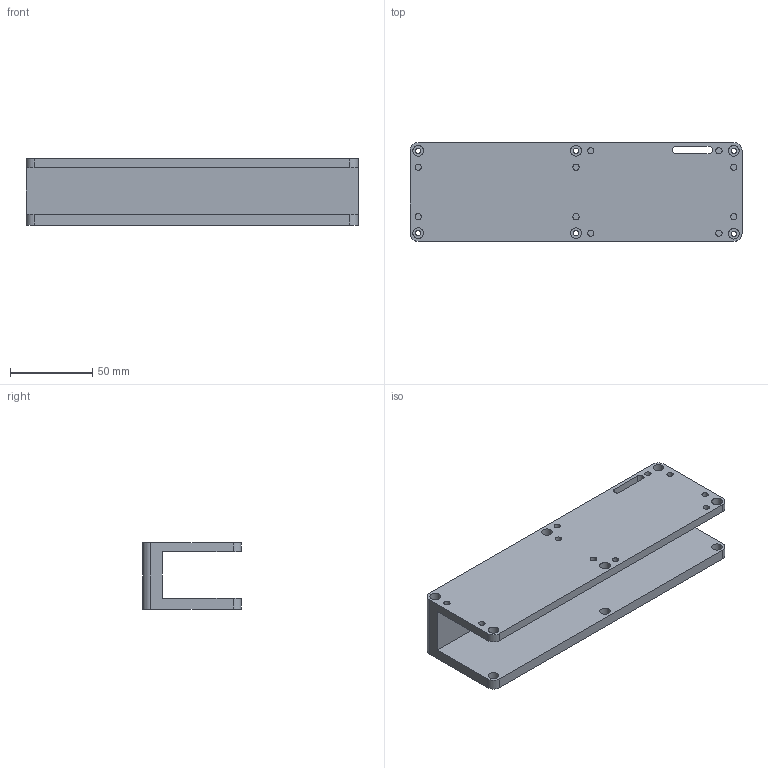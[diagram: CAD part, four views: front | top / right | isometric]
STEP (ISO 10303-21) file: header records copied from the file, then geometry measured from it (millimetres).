
FILE_DESCRIPTION(/* description */ (''),/* implementation_level */ '2;1');
FILE_NAME(/* name */ 'C:\Users\Karol\Documents\Inventor\gniazdo_desktop\C-Clamp_Bracket_25mm.stp',/* time_stamp */ '2026-03-14T22:25:13+01:00',/* author */ ('Karol'),/* organization */ (''),/* preprocessor_version */ 'ST-DEVELOPER v16.1',/* originating_system */ 'Autodesk Inventor 2016',/* authorisation */ '');
FILE_SCHEMA (('AUTOMOTIVE_DESIGN { 1 0 10303 214 3 1 1 }'));
Length unit declared in the file: millimetre
Products named in the file (1): blat_holder
Bounding box: 201.44 x 60 x 40.3 mm (x, y, z)
Volume: 201124.2 mm3; surface area: 66823.1 mm2
Topology: 1 solids, 1 shells, 53 faces, 129 edges, 86 vertices
Faces by surface type: cylinder 33, plane 20
Full cylindrical faces by diameter (mm): 3.2 x6, 3.8 x10, 6.5 x9
Entity records: 1560 total; most frequent: DIRECTION 278, CARTESIAN_POINT 244, ORIENTED_EDGE 208, EDGE_LOOP 122, AXIS2_PLACEMENT_3D 120, EDGE_CURVE 104, VERTEX_POINT 86, FACE_BOUND 69
